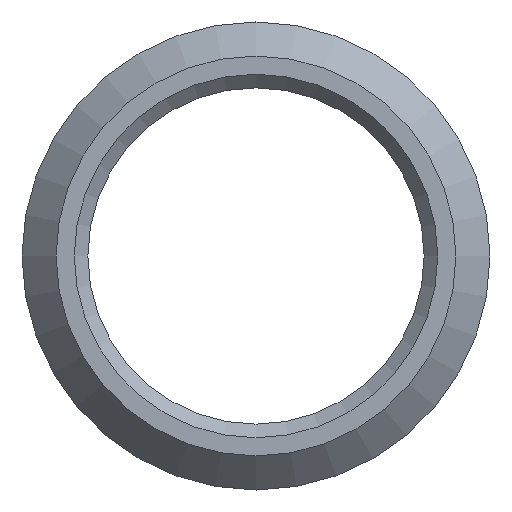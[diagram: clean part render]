
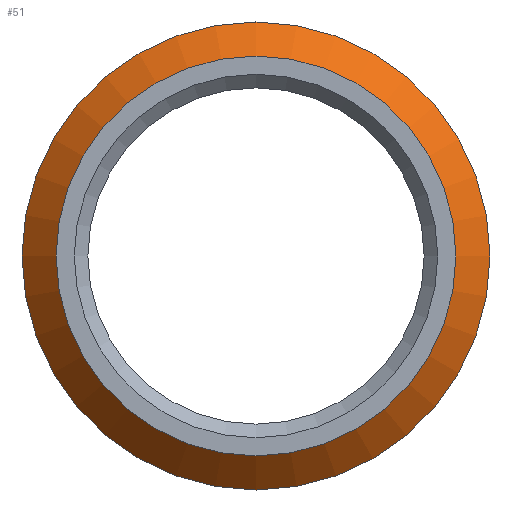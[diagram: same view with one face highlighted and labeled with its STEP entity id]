
A CAD part, front view. The second image highlights one B-rep face of the part: STEP entity #51.
In plain terms, the highlighted conical face has half-angle 45 degrees and reference radius 9.55 mm.
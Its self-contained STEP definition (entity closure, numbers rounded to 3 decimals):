
#51=ADVANCED_FACE('',(#115,#117),#119,.T.);
#115=FACE_OUTER_BOUND('',#116,.T.);
#116=EDGE_LOOP('',(#138));
#117=FACE_OUTER_BOUND('',#118,.T.);
#118=EDGE_LOOP('',(#139));
#119=CONICAL_SURFACE('',#120,9.55,0.785);
#120=AXIS2_PLACEMENT_3D('',#121,#122,#123);
#121=CARTESIAN_POINT('',(0.,0.75,0.));
#122=DIRECTION('',(0.,1.,0.));
#123=DIRECTION('',(-1.,0.,0.));
#138=ORIENTED_EDGE('',*,*,#147,.T.);
#139=ORIENTED_EDGE('',*,*,#145,.F.);
#145=EDGE_CURVE('',#158,#158,#159,.T.);
#147=EDGE_CURVE('',#162,#162,#163,.T.);
#158=VERTEX_POINT('',#189);
#159=CIRCLE('',#190,10.3);
#162=VERTEX_POINT('',#199);
#163=CIRCLE('',#200,8.8);
#189=CARTESIAN_POINT('',(-10.3,1.5,0.));
#190=AXIS2_PLACEMENT_3D('',#191,#192,#193);
#191=CARTESIAN_POINT('',(0.,1.5,0.));
#192=DIRECTION('',(0.,1.,0.));
#193=DIRECTION('',(-1.,0.,0.));
#199=CARTESIAN_POINT('',(-8.8,0.,0.));
#200=AXIS2_PLACEMENT_3D('',#201,#202,#203);
#201=CARTESIAN_POINT('',(0.,0.,0.));
#202=DIRECTION('',(0.,1.,0.));
#203=DIRECTION('',(-1.,0.,0.));
